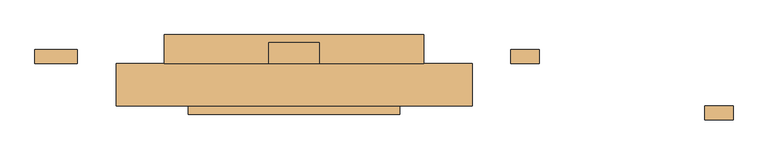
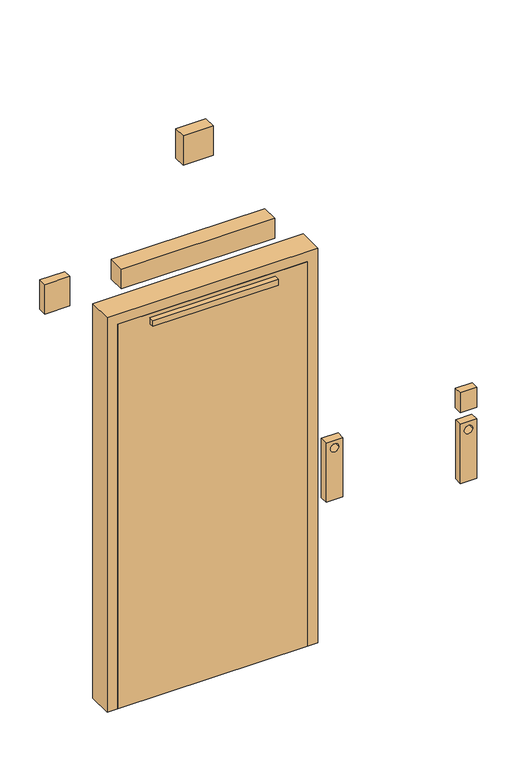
"""IFC4 building model written with IfcOpenShell, lengths in millimetres: door geometry, LOC_Enkeldörr : LOC_Enkeldörr."""

from ifc_helpers import new_model, si_unit, point, frame, frame_2d, origin, origin_with_axes, place, context, project, spatial, polyline, circle_curve, trimmed, segment, composite_curve, outline, extrude, source, transform, mapped, element, save


def door_497745e8(model_context):
    return source(origin(), model_context, "Body", "SweptSolid", [
        extrude(outline(polyline([(300.0, 3.9461432), (300.0, -20.0), (-300.0, -20.0), (-300.0, 3.9461432), (300.0, 3.9461432)])), frame((0.0, 0.0, 1900.0), z_axis=(0.0, 0.0, 1.0), x_axis=(1.0, 0.0, 0.0)), (0.0, 0.0, 1.0), 30.0),
        extrude(outline(polyline([(300.0, -60.0), (300.0, -84.7279155), (-300.0, -84.7279155), (-300.0, -60.0), (300.0, -60.0)])), frame((0.0, 0.0, 1900.0), z_axis=(0.0, 0.0, 1.0), x_axis=(1.0, 0.0, 0.0)), (0.0, 0.0, 1.0), 30.0),
        extrude(outline(polyline([(455.0, -60.0), (-455.0, -60.0), (-455.0, -20.0), (455.0, -20.0), (455.0, -60.0)])), origin_with_axes(), (0.0, 0.0, 1.0), 1950.0),
        extrude(outline(polyline([(71.850514, 119.024496), (71.850514, 60.0), (-71.850514, 60.0), (-71.850514, 119.024496), (71.850514, 119.024496)])), frame((0.0, 0.0, 2550.0), z_axis=(0.0, 0.0, 1.0), x_axis=(1.0, 0.0, 0.0)), (0.0, 0.0, 1.0), 150.0),
        extrude(outline(polyline([(-615.0, 100.0), (-615.0, 60.0), (-735.0, 60.0), (-735.0, 100.0), (-615.0, 100.0)])), frame((0.0, 0.0, 2026.8339397), z_axis=(0.0, 0.0, 1.0), x_axis=(1.0, 0.0, 0.0)), (0.0, 0.0, 1.0), 150.0),
        extrude(outline(polyline([(900.0, 695.0), (900.0, 615.0), (600.0, 615.0), (600.0, 695.0), (900.0, 695.0)]), holes=[composite_curve([segment(trimmed(circle_curve(frame_2d((862.8880859, 655.0)), 20.0), [point((862.8880859, 635.0))], [point((862.8880859, 675.0))], True, "CARTESIAN"), True, "CONTINUOUS"), segment(trimmed(circle_curve(frame_2d((862.8880859, 655.0)), 20.0), [point((862.8880859, 675.0))], [point((862.8880859, 635.0))], True, "CARTESIAN"), True, "CONTINUOUS")], self_intersect=False)]), frame((0.0, 60.0, 0.0), z_axis=(0.0, 1.0, 0.0), x_axis=(0.0, 0.0, 1.0)), (0.0, 0.0, 1.0), 40.0),
        extrude(outline(polyline([(367.845119, 141.7641566), (367.845119, 60.0), (-367.845119, 60.0), (-367.845119, 141.7641566), (367.845119, 141.7641566)])), frame((0.0, 0.0, 2026.8339397), z_axis=(0.0, 0.0, 1.0), x_axis=(1.0, 0.0, 0.0)), (0.0, 0.0, 1.0), 100.0),
        extrude(outline(polyline([(900.0, 1165.5145815), (600.0, 1165.5145815), (600.0, 1244.4854185), (900.0, 1244.4854185), (900.0, 1165.5145815)]), holes=[composite_curve([segment(trimmed(circle_curve(frame_2d((860.0, 1205.0)), 20.0), [point((860.0, 1185.0))], [point((860.0, 1225.0))], True, "CARTESIAN"), True, "CONTINUOUS"), segment(trimmed(circle_curve(frame_2d((860.0, 1205.0)), 20.0), [point((860.0, 1225.0))], [point((860.0, 1185.0))], True, "CARTESIAN"), True, "CONTINUOUS")], self_intersect=False)]), frame((0.0, -99.7931161, 0.0), z_axis=(0.0, 1.0, 0.0), x_axis=(0.0, 0.0, 1.0)), (0.0, 0.0, 1.0), 39.7931161),
        extrude(outline(polyline([(1245.0, -60.0), (1245.0, -99.7931161), (1165.0, -99.7931161), (1165.0, -60.0), (1245.0, -60.0)])), frame((0.0, 0.0, 960.0040929), z_axis=(0.0, 0.0, 1.0), x_axis=(1.0, 0.0, 0.0)), (0.0, 0.0, 1.0), 100.0),
        extrude(outline(polyline([(2000.0, 505.0), (2000.0, -505.0), (0.0, -505.0), (0.0, -455.0), (1950.0, -455.0), (1950.0, 455.0), (0.0, 455.0), (0.0, 505.0), (2000.0, 505.0)])), frame((0.0, -60.0, 0.0), z_axis=(0.0, 1.0, 0.0), x_axis=(0.0, 0.0, 1.0)), (0.0, 0.0, 1.0), 120.0),
    ])


if __name__ == "__main__":
    model = new_model("IFC4")
    model_context = context("Model", 3, world=origin())
    ifc_project = project(units=[si_unit("LENGTHUNIT", "METRE", prefix="MILLI")], contexts=[model_context])
    site = spatial("IfcSite", under=ifc_project)
    building = spatial("IfcBuilding", under=site)
    placement = place(None, origin())
    door_shape = door_497745e8(model_context)
    element("IfcDoor", 1, ObjectType="LOC_Enkeldörr : LOC_Enkeldörr", at=placement, inside=building, context=model_context, shape_type="MappedRepresentation", body=[
        mapped(door_shape, transform((0.0, 0.0, 0.0), x_axis=(1.0, 0.0, 0.0), y_axis=(0.0, 1.0, 0.0), z_axis=(0.0, 0.0, 1.0))),
    ])
    save(model, "model.ifc")
